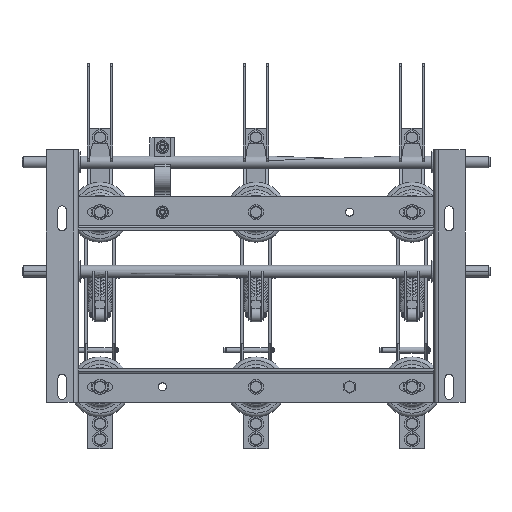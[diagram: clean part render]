
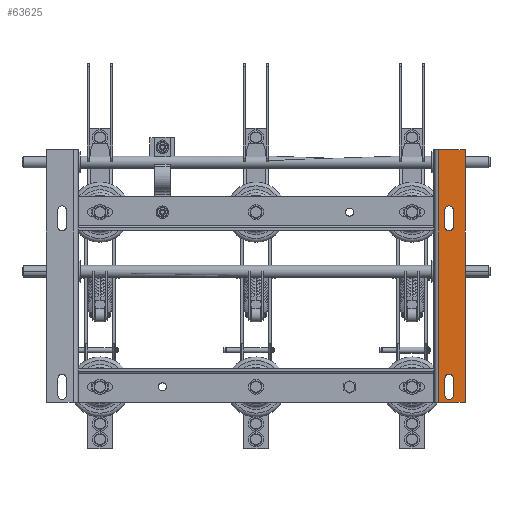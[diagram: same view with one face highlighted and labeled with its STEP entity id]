
A CAD part, front view. The second image highlights one B-rep face of the part: STEP entity #63625.
In plain terms, the highlighted planar face has unit normal (0, -1, 0).
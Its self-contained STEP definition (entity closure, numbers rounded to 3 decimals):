
#5082 = DIRECTION ( 'NONE',  ( -1., 0., 0. ) ) ;
#6328 = VERTEX_POINT ( 'NONE', #82749 ) ;
#6390 = VECTOR ( 'NONE', #40783, 1000. ) ;
#6694 = CARTESIAN_POINT ( 'NONE',  ( 336.808, -0.004, 47.501 ) ) ;
#9031 = VERTEX_POINT ( 'NONE', #24055 ) ;
#11353 = EDGE_CURVE ( 'NONE', #76436, #20559, #24179, .T. ) ;
#12081 = LINE ( 'NONE', #95814, #89278 ) ;
#12697 = CARTESIAN_POINT ( 'NONE',  ( 310.108, -0.004, 148.001 ) ) ;
#13337 = VERTEX_POINT ( 'NONE', #54902 ) ;
#13756 = LINE ( 'NONE', #14313, #51252 ) ;
#14313 = CARTESIAN_POINT ( 'NONE',  ( 293.605, -0.004, -159.999 ) ) ;
#14382 = EDGE_CURVE ( 'NONE', #13337, #82241, #26250, .T. ) ;
#17246 = VECTOR ( 'NONE', #21411, 1000. ) ;
#18113 = CARTESIAN_POINT ( 'NONE',  ( 317.108, -0.004, 148.001 ) ) ;
#18186 = DIRECTION ( 'NONE',  ( 0., 1., 0. ) ) ;
#18231 = CARTESIAN_POINT ( 'NONE',  ( 303.108, -0.004, -121.999 ) ) ;
#19034 = EDGE_CURVE ( 'NONE', #93113, #76521, #28250, .T. ) ;
#19576 = ORIENTED_EDGE ( 'NONE', *, *, #77372, .T. ) ;
#19855 = EDGE_CURVE ( 'NONE', #49711, #57920, #38668, .T. ) ;
#20212 = DIRECTION ( 'NONE',  ( 1., 0., 0. ) ) ;
#20559 = VERTEX_POINT ( 'NONE', #96043 ) ;
#21411 = DIRECTION ( 'NONE',  ( 0., 0., 1. ) ) ;
#24055 = CARTESIAN_POINT ( 'NONE',  ( 293.605, -0.004, -159.999 ) ) ;
#24179 = LINE ( 'NONE', #96264, #61687 ) ;
#24258 = EDGE_LOOP ( 'NONE', ( #81186, #50337, #65883, #95953 ) ) ;
#25935 = VERTEX_POINT ( 'NONE', #74220 ) ;
#26250 = LINE ( 'NONE', #18231, #6390 ) ;
#26459 = ORIENTED_EDGE ( 'NONE', *, *, #11353, .T. ) ;
#28250 = LINE ( 'NONE', #91997, #45840 ) ;
#30659 = ORIENTED_EDGE ( 'NONE', *, *, #32487, .T. ) ;
#32306 = ORIENTED_EDGE ( 'NONE', *, *, #63395, .T. ) ;
#32487 = EDGE_CURVE ( 'NONE', #82241, #93113, #50568, .T. ) ;
#33620 = AXIS2_PLACEMENT_3D ( 'NONE', #63026, #18186, #70494 ) ;
#35368 = CARTESIAN_POINT ( 'NONE',  ( 310.108, -0.004, -121.999 ) ) ;
#35471 = EDGE_LOOP ( 'NONE', ( #19576, #85956, #56506, #26459 ) ) ;
#36008 = CIRCLE ( 'NONE', #47522, 7. ) ;
#36193 = EDGE_CURVE ( 'NONE', #25935, #76436, #39460, .T. ) ;
#36204 = AXIS2_PLACEMENT_3D ( 'NONE', #35368, #87658, #42855 ) ;
#36344 = VECTOR ( 'NONE', #37652, 1000. ) ;
#36370 = ORIENTED_EDGE ( 'NONE', *, *, #19034, .T. ) ;
#36393 = DIRECTION ( 'NONE',  ( -1., 0., 0. ) ) ;
#36766 = DIRECTION ( 'NONE',  ( -1., 0., 0. ) ) ;
#36851 = EDGE_LOOP ( 'NONE', ( #32306, #51954, #30659, #36370 ) ) ;
#37190 = DIRECTION ( 'NONE',  ( 0., 0., -1. ) ) ;
#37652 = DIRECTION ( 'NONE',  ( 0., 0., 1. ) ) ;
#37925 = VERTEX_POINT ( 'NONE', #18113 ) ;
#38668 = CIRCLE ( 'NONE', #33620, 7. ) ;
#39460 = LINE ( 'NONE', #73744, #17246 ) ;
#40046 = EDGE_CURVE ( 'NONE', #37925, #49711, #12081, .T. ) ;
#40783 = DIRECTION ( 'NONE',  ( 0., 0., 1. ) ) ;
#42855 = DIRECTION ( 'NONE',  ( 1., 0., 0. ) ) ;
#43276 = LINE ( 'NONE', #59846, #83067 ) ;
#45840 = VECTOR ( 'NONE', #47257, 1000. ) ;
#47257 = DIRECTION ( 'NONE',  ( 0., 0., -1. ) ) ;
#47522 = AXIS2_PLACEMENT_3D ( 'NONE', #12697, #65047, #20212 ) ;
#49711 = VERTEX_POINT ( 'NONE', #68090 ) ;
#49881 = DIRECTION ( 'NONE',  ( 0., 1., 0. ) ) ;
#50337 = ORIENTED_EDGE ( 'NONE', *, *, #76814, .T. ) ;
#50568 = CIRCLE ( 'NONE', #36204, 7. ) ;
#51252 = VECTOR ( 'NONE', #59176, 1000. ) ;
#51954 = ORIENTED_EDGE ( 'NONE', *, *, #14382, .T. ) ;
#54902 = CARTESIAN_POINT ( 'NONE',  ( 303.108, -0.004, -147.999 ) ) ;
#56506 = ORIENTED_EDGE ( 'NONE', *, *, #36193, .T. ) ;
#56876 = FACE_BOUND ( 'NONE', #24258, .T. ) ;
#57920 = VERTEX_POINT ( 'NONE', #66474 ) ;
#58669 = CARTESIAN_POINT ( 'NONE',  ( 335.608, -0.004, 245.001 ) ) ;
#59176 = DIRECTION ( 'NONE',  ( 1., 0., 0. ) ) ;
#59846 = CARTESIAN_POINT ( 'NONE',  ( 293.605, -0.004, 245.001 ) ) ;
#60314 = AXIS2_PLACEMENT_3D ( 'NONE', #6694, #81563, #36766 ) ;
#61687 = VECTOR ( 'NONE', #36393, 1000. ) ;
#63026 = CARTESIAN_POINT ( 'NONE',  ( 310.108, -0.004, 122.001 ) ) ;
#63395 = EDGE_CURVE ( 'NONE', #76521, #13337, #86045, .T. ) ;
#63625 = ADVANCED_FACE ( 'NONE', ( #74353, #94245, #56876 ), #74069, .T. ) ;
#65047 = DIRECTION ( 'NONE',  ( 0., 1., 0. ) ) ;
#65883 = ORIENTED_EDGE ( 'NONE', *, *, #70368, .T. ) ;
#66474 = CARTESIAN_POINT ( 'NONE',  ( 303.108, -0.004, 122.001 ) ) ;
#68090 = CARTESIAN_POINT ( 'NONE',  ( 317.108, -0.004, 122.001 ) ) ;
#70368 = EDGE_CURVE ( 'NONE', #6328, #37925, #36008, .T. ) ;
#70453 = EDGE_CURVE ( 'NONE', #9031, #25935, #13756, .T. ) ;
#70494 = DIRECTION ( 'NONE',  ( -1., 0., 0. ) ) ;
#73744 = CARTESIAN_POINT ( 'NONE',  ( 335.608, -0.004, -159.999 ) ) ;
#73829 = CARTESIAN_POINT ( 'NONE',  ( 303.108, -0.004, -121.999 ) ) ;
#74069 = PLANE ( 'NONE',  #60314 ) ;
#74220 = CARTESIAN_POINT ( 'NONE',  ( 335.608, -0.004, -159.999 ) ) ;
#74353 = FACE_OUTER_BOUND ( 'NONE', #35471, .T. ) ;
#76142 = LINE ( 'NONE', #96541, #36344 ) ;
#76436 = VERTEX_POINT ( 'NONE', #58669 ) ;
#76521 = VERTEX_POINT ( 'NONE', #81787 ) ;
#76814 = EDGE_CURVE ( 'NONE', #57920, #6328, #76142, .T. ) ;
#77372 = EDGE_CURVE ( 'NONE', #20559, #9031, #43276, .T. ) ;
#78585 = CARTESIAN_POINT ( 'NONE',  ( 317.108, -0.004, -121.999 ) ) ;
#81186 = ORIENTED_EDGE ( 'NONE', *, *, #19855, .T. ) ;
#81563 = DIRECTION ( 'NONE',  ( 0., -1., 0. ) ) ;
#81787 = CARTESIAN_POINT ( 'NONE',  ( 317.108, -0.004, -147.999 ) ) ;
#82241 = VERTEX_POINT ( 'NONE', #73829 ) ;
#82749 = CARTESIAN_POINT ( 'NONE',  ( 303.108, -0.004, 148.001 ) ) ;
#83067 = VECTOR ( 'NONE', #37190, 1000. ) ;
#85956 = ORIENTED_EDGE ( 'NONE', *, *, #70453, .T. ) ;
#86045 = CIRCLE ( 'NONE', #87159, 7. ) ;
#87159 = AXIS2_PLACEMENT_3D ( 'NONE', #94681, #49881, #5082 ) ;
#87658 = DIRECTION ( 'NONE',  ( 0., 1., 0. ) ) ;
#88230 = DIRECTION ( 'NONE',  ( 0., 0., -1. ) ) ;
#89278 = VECTOR ( 'NONE', #88230, 1000. ) ;
#91997 = CARTESIAN_POINT ( 'NONE',  ( 317.108, -0.004, -147.999 ) ) ;
#93113 = VERTEX_POINT ( 'NONE', #78585 ) ;
#94245 = FACE_BOUND ( 'NONE', #36851, .T. ) ;
#94681 = CARTESIAN_POINT ( 'NONE',  ( 310.108, -0.004, -147.999 ) ) ;
#95814 = CARTESIAN_POINT ( 'NONE',  ( 317.108, -0.004, 122.001 ) ) ;
#95953 = ORIENTED_EDGE ( 'NONE', *, *, #40046, .T. ) ;
#96043 = CARTESIAN_POINT ( 'NONE',  ( 293.605, -0.004, 245.001 ) ) ;
#96264 = CARTESIAN_POINT ( 'NONE',  ( 335.608, -0.004, 245.001 ) ) ;
#96541 = CARTESIAN_POINT ( 'NONE',  ( 303.108, -0.004, 148.001 ) ) ;
